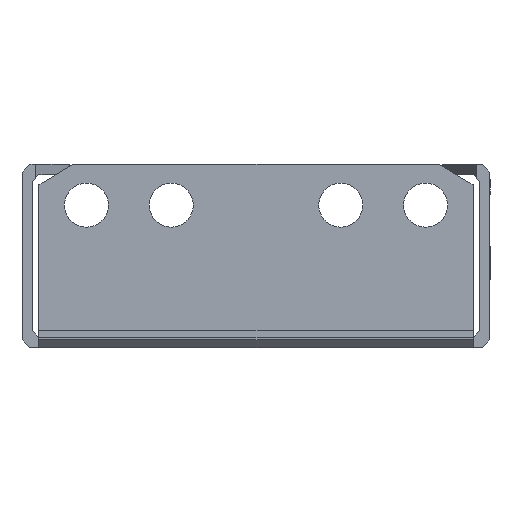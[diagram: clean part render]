
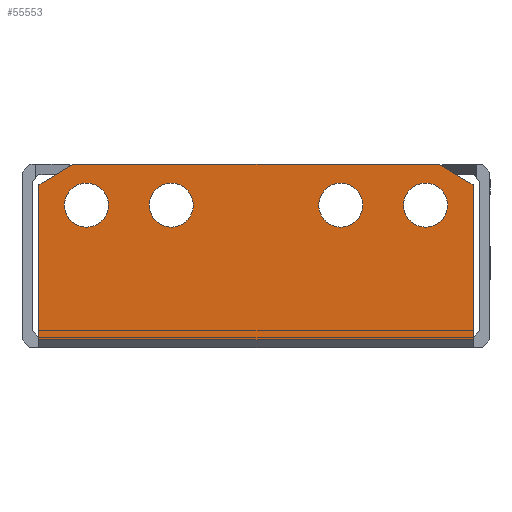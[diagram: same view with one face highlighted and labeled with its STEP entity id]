
A CAD part, left-side view. The second image highlights one B-rep face of the part: STEP entity #55553.
In plain terms, the highlighted planar face has unit normal (-1, 0, 0).
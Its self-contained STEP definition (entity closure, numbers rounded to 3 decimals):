
#399 = LINE ( 'NONE', #4066, #22090 ) ;
#527 = DIRECTION ( 'NONE',  ( -1., 0., 0. ) ) ;
#946 = CARTESIAN_POINT ( 'NONE',  ( -453., -25., 16.25 ) ) ;
#1398 = ORIENTED_EDGE ( 'NONE', *, *, #52167, .F. ) ;
#3151 = DIRECTION ( 'NONE',  ( 0., 0., 1. ) ) ;
#4066 = CARTESIAN_POINT ( 'NONE',  ( -453., -32., 22.5 ) ) ;
#4360 = CARTESIAN_POINT ( 'NONE',  ( -453., -32., 22.5 ) ) ;
#4407 = EDGE_LOOP ( 'NONE', ( #45226, #1398 ) ) ;
#5134 = CARTESIAN_POINT ( 'NONE',  ( -453., -25., 19.5 ) ) ;
#5244 = AXIS2_PLACEMENT_3D ( 'NONE', #20883, #17208, #37830 ) ;
#5449 = EDGE_CURVE ( 'NONE', #8311, #51622, #31654, .T. ) ;
#6366 = EDGE_CURVE ( 'NONE', #19739, #7616, #22906, .T. ) ;
#6603 = DIRECTION ( 'NONE',  ( 0., 0., 1. ) ) ;
#6883 = DIRECTION ( 'NONE',  ( -1., 0., 0. ) ) ;
#7616 = VERTEX_POINT ( 'NONE', #33833 ) ;
#8311 = VERTEX_POINT ( 'NONE', #55011 ) ;
#8416 = VERTEX_POINT ( 'NONE', #13536 ) ;
#8550 = DIRECTION ( 'NONE',  ( 0., 0., 1. ) ) ;
#8826 = CIRCLE ( 'NONE', #5244, 3.25 ) ;
#9565 = ORIENTED_EDGE ( 'NONE', *, *, #27130, .T. ) ;
#9616 = EDGE_CURVE ( 'NONE', #7616, #19739, #8826, .T. ) ;
#9818 = EDGE_CURVE ( 'NONE', #54327, #50392, #23385, .T. ) ;
#10088 = VECTOR ( 'NONE', #52439, 1000. ) ;
#11072 = EDGE_LOOP ( 'NONE', ( #32143, #52274 ) ) ;
#11292 = CARTESIAN_POINT ( 'NONE',  ( -453., -32., 22.5 ) ) ;
#11869 = DIRECTION ( 'NONE',  ( -1., 0., 0. ) ) ;
#13215 = CARTESIAN_POINT ( 'NONE',  ( -453., -12.5, 19.5 ) ) ;
#13536 = CARTESIAN_POINT ( 'NONE',  ( -453., 12.5, 22.75 ) ) ;
#13656 = ORIENTED_EDGE ( 'NONE', *, *, #47382, .F. ) ;
#13862 = DIRECTION ( 'NONE',  ( -1., 0., 0. ) ) ;
#13988 = AXIS2_PLACEMENT_3D ( 'NONE', #24315, #23228, #6603 ) ;
#15005 = FACE_BOUND ( 'NONE', #48283, .T. ) ;
#15482 = CARTESIAN_POINT ( 'NONE',  ( -453., 32., 22.5 ) ) ;
#15520 = VECTOR ( 'NONE', #49352, 1000. ) ;
#15838 = FACE_BOUND ( 'NONE', #30150, .T. ) ;
#16676 = AXIS2_PLACEMENT_3D ( 'NONE', #32266, #6883, #54536 ) ;
#16678 = ORIENTED_EDGE ( 'NONE', *, *, #5449, .T. ) ;
#17208 = DIRECTION ( 'NONE',  ( -1., 0., 0. ) ) ;
#17431 = CARTESIAN_POINT ( 'NONE',  ( -453., 25., 19.5 ) ) ;
#17917 = ORIENTED_EDGE ( 'NONE', *, *, #29669, .F. ) ;
#18126 = DIRECTION ( 'NONE',  ( 0., 0., -1. ) ) ;
#18128 = CARTESIAN_POINT ( 'NONE',  ( -453., 25., 16.25 ) ) ;
#18577 = ORIENTED_EDGE ( 'NONE', *, *, #9616, .F. ) ;
#18968 = ORIENTED_EDGE ( 'NONE', *, *, #26243, .T. ) ;
#19577 = CARTESIAN_POINT ( 'NONE',  ( -453., 32., -0.369 ) ) ;
#19730 = EDGE_CURVE ( 'NONE', #54327, #51622, #39728, .T. ) ;
#19739 = VERTEX_POINT ( 'NONE', #21956 ) ;
#20883 = CARTESIAN_POINT ( 'NONE',  ( -453., -12.5, 19.5 ) ) ;
#21956 = CARTESIAN_POINT ( 'NONE',  ( -453., -12.5, 16.25 ) ) ;
#22090 = VECTOR ( 'NONE', #52286, 1000. ) ;
#22296 = DIRECTION ( 'NONE',  ( 0., 0., 1. ) ) ;
#22906 = CIRCLE ( 'NONE', #37356, 3.25 ) ;
#22943 = VECTOR ( 'NONE', #29565, 1000. ) ;
#22954 = ORIENTED_EDGE ( 'NONE', *, *, #19730, .F. ) ;
#23228 = DIRECTION ( 'NONE',  ( -1., 0., 0. ) ) ;
#23385 = LINE ( 'NONE', #11292, #48524 ) ;
#24315 = CARTESIAN_POINT ( 'NONE',  ( -453., -25., 19.5 ) ) ;
#24718 = CIRCLE ( 'NONE', #35578, 3.25 ) ;
#24998 = DIRECTION ( 'NONE',  ( -1., 0., 0. ) ) ;
#25350 = VECTOR ( 'NONE', #18126, 1000. ) ;
#25734 = DIRECTION ( 'NONE',  ( -1., 0., 0. ) ) ;
#26243 = EDGE_CURVE ( 'NONE', #51139, #46021, #42835, .T. ) ;
#27130 = EDGE_CURVE ( 'NONE', #50392, #51139, #399, .T. ) ;
#28252 = PLANE ( 'NONE',  #44852 ) ;
#29243 = CARTESIAN_POINT ( 'NONE',  ( -453., 12.5, 16.25 ) ) ;
#29565 = DIRECTION ( 'NONE',  ( 0., 1., 0. ) ) ;
#29578 = AXIS2_PLACEMENT_3D ( 'NONE', #5134, #13862, #22296 ) ;
#29669 = EDGE_CURVE ( 'NONE', #54017, #8416, #54098, .T. ) ;
#29796 = DIRECTION ( 'NONE',  ( 0., 0., 1. ) ) ;
#30150 = EDGE_LOOP ( 'NONE', ( #17917, #13656 ) ) ;
#31346 = ORIENTED_EDGE ( 'NONE', *, *, #9818, .T. ) ;
#31654 = LINE ( 'NONE', #39848, #25350 ) ;
#32143 = ORIENTED_EDGE ( 'NONE', *, *, #40772, .F. ) ;
#32212 = FACE_OUTER_BOUND ( 'NONE', #42590, .T. ) ;
#32266 = CARTESIAN_POINT ( 'NONE',  ( -453., 12.5, 19.5 ) ) ;
#32471 = FACE_BOUND ( 'NONE', #4407, .T. ) ;
#33833 = CARTESIAN_POINT ( 'NONE',  ( -453., -12.5, 22.75 ) ) ;
#34092 = CIRCLE ( 'NONE', #29578, 3.25 ) ;
#35120 = CARTESIAN_POINT ( 'NONE',  ( -453., 27., 25.5 ) ) ;
#35578 = AXIS2_PLACEMENT_3D ( 'NONE', #42668, #25734, #8550 ) ;
#35719 = ORIENTED_EDGE ( 'NONE', *, *, #6366, .F. ) ;
#35794 = CARTESIAN_POINT ( 'NONE',  ( -453., -35.536, -0.369 ) ) ;
#37356 = AXIS2_PLACEMENT_3D ( 'NONE', #13215, #43101, #51577 ) ;
#37397 = EDGE_CURVE ( 'NONE', #53305, #55746, #24718, .T. ) ;
#37830 = DIRECTION ( 'NONE',  ( 0., 0., 1. ) ) ;
#38290 = CIRCLE ( 'NONE', #39228, 3.25 ) ;
#39124 = CARTESIAN_POINT ( 'NONE',  ( -453., 12.5, 19.5 ) ) ;
#39167 = DIRECTION ( 'NONE',  ( 0., 0., 1. ) ) ;
#39226 = CARTESIAN_POINT ( 'NONE',  ( -453., 25., 22.75 ) ) ;
#39228 = AXIS2_PLACEMENT_3D ( 'NONE', #17431, #527, #39167 ) ;
#39728 = LINE ( 'NONE', #35794, #10088 ) ;
#39848 = CARTESIAN_POINT ( 'NONE',  ( -453., 32., 0. ) ) ;
#40019 = VERTEX_POINT ( 'NONE', #43954 ) ;
#40321 = VERTEX_POINT ( 'NONE', #946 ) ;
#40339 = LINE ( 'NONE', #15482, #15520 ) ;
#40772 = EDGE_CURVE ( 'NONE', #40321, #40019, #34092, .T. ) ;
#42590 = EDGE_LOOP ( 'NONE', ( #16678, #22954, #31346, #9565, #18968, #51957 ) ) ;
#42668 = CARTESIAN_POINT ( 'NONE',  ( -453., 25., 19.5 ) ) ;
#42769 = CIRCLE ( 'NONE', #13988, 3.25 ) ;
#42835 = LINE ( 'NONE', #43094, #22943 ) ;
#43094 = CARTESIAN_POINT ( 'NONE',  ( -453., 27., 25.5 ) ) ;
#43101 = DIRECTION ( 'NONE',  ( -1., 0., 0. ) ) ;
#43954 = CARTESIAN_POINT ( 'NONE',  ( -453., -25., 22.75 ) ) ;
#44852 = AXIS2_PLACEMENT_3D ( 'NONE', #45469, #11869, #3151 ) ;
#45038 = CARTESIAN_POINT ( 'NONE',  ( -453., -27., 25.5 ) ) ;
#45226 = ORIENTED_EDGE ( 'NONE', *, *, #37397, .F. ) ;
#45469 = CARTESIAN_POINT ( 'NONE',  ( -453., 0., 0. ) ) ;
#45827 = CARTESIAN_POINT ( 'NONE',  ( -453., -32., -0.369 ) ) ;
#46021 = VERTEX_POINT ( 'NONE', #35120 ) ;
#46429 = EDGE_CURVE ( 'NONE', #46021, #8311, #40339, .T. ) ;
#47332 = EDGE_CURVE ( 'NONE', #40019, #40321, #42769, .T. ) ;
#47382 = EDGE_CURVE ( 'NONE', #8416, #54017, #55394, .T. ) ;
#48283 = EDGE_LOOP ( 'NONE', ( #35719, #18577 ) ) ;
#48524 = VECTOR ( 'NONE', #49101, 1000. ) ;
#49101 = DIRECTION ( 'NONE',  ( 0., 0., 1. ) ) ;
#49352 = DIRECTION ( 'NONE',  ( 0., 0.857, -0.514 ) ) ;
#49598 = AXIS2_PLACEMENT_3D ( 'NONE', #39124, #24998, #29796 ) ;
#50392 = VERTEX_POINT ( 'NONE', #4360 ) ;
#51139 = VERTEX_POINT ( 'NONE', #45038 ) ;
#51577 = DIRECTION ( 'NONE',  ( 0., 0., 1. ) ) ;
#51622 = VERTEX_POINT ( 'NONE', #19577 ) ;
#51957 = ORIENTED_EDGE ( 'NONE', *, *, #46429, .T. ) ;
#52167 = EDGE_CURVE ( 'NONE', #55746, #53305, #38290, .T. ) ;
#52274 = ORIENTED_EDGE ( 'NONE', *, *, #47332, .F. ) ;
#52286 = DIRECTION ( 'NONE',  ( 0., 0.857, 0.514 ) ) ;
#52439 = DIRECTION ( 'NONE',  ( 0., 1., 0. ) ) ;
#53305 = VERTEX_POINT ( 'NONE', #18128 ) ;
#54017 = VERTEX_POINT ( 'NONE', #29243 ) ;
#54098 = CIRCLE ( 'NONE', #49598, 3.25 ) ;
#54327 = VERTEX_POINT ( 'NONE', #45827 ) ;
#54536 = DIRECTION ( 'NONE',  ( 0., 0., 1. ) ) ;
#54743 = FACE_BOUND ( 'NONE', #11072, .T. ) ;
#55011 = CARTESIAN_POINT ( 'NONE',  ( -453., 32., 22.5 ) ) ;
#55394 = CIRCLE ( 'NONE', #16676, 3.25 ) ;
#55553 = ADVANCED_FACE ( 'NONE', ( #32471, #15005, #54743, #15838, #32212 ), #28252, .T. ) ;
#55746 = VERTEX_POINT ( 'NONE', #39226 ) ;
